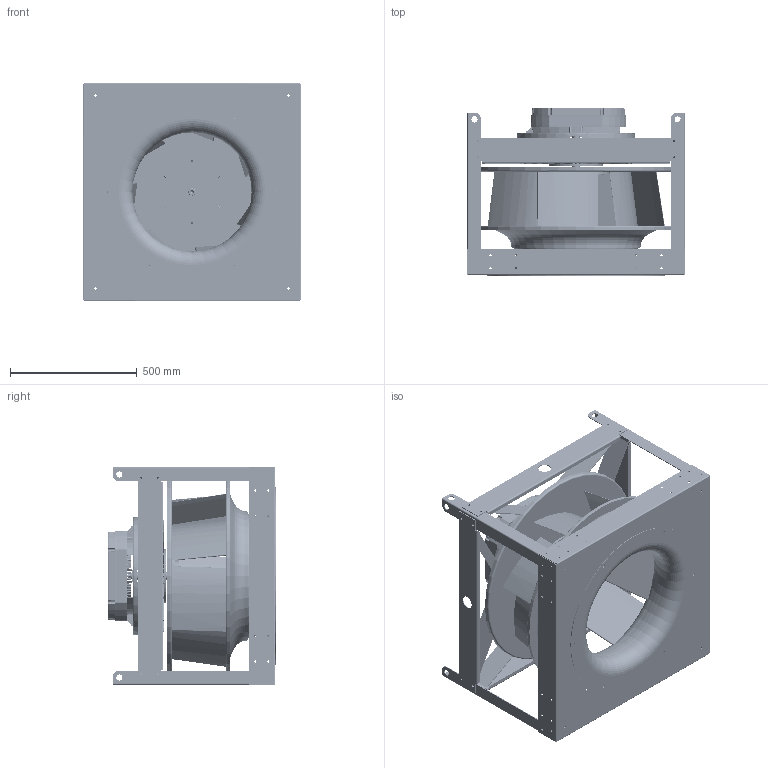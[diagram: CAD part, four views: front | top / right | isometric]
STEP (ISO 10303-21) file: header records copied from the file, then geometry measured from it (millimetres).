
FILE_DESCRIPTION (( 'STEP AP214' ), '1' );
FILE_NAME ('655790.STEP', '2026-06-10T20:30:36', ( '' ), ( '' ), 'SwSTEP 2.0', 'SolidWorks 2023', '' );
FILE_SCHEMA (( 'AUTOMOTIVE_DESIGN' ));
Length unit declared in the file: inch
Products named in the file (8): 651551_651551; 651571_651571; 768040CS_768040CS; 651572_651572; 925770CS_925770CS; 655790; 768052CS_768052CS; SXPI STRAP_651554
Assembly tree (16 placements, depth 2):
  655790
    651551_651551
    651571_651571  x4
    651572_651572  x4
    SXPI STRAP_651554  x4
    925770CS_925770CS
    768040CS_768040CS
    768052CS_768052CS
Bounding box: 864.96 x 661.4 x 864.96 mm (x, y, z)
Volume: 20061434.5 mm3; surface area: 10073637.8 mm2
Topology: 45 solids, 45 shells, 11309 faces, 27320 edges, 15782 vertices
Faces by surface type: bspline 3374, cylinder 2977, plane 1997, torus 1445, cone 1132, sphere 384
Full cylindrical faces by diameter (mm): 5.156 x6, 7.137 x48, 7.544 x1, 8.738 x84, 25.4 x8, 50.8 x4, 623.316 x1
Entity records: 440924 total; most frequent: CARTESIAN_POINT 209987, ORIENTED_EDGE 51856, DIRECTION 43768, EDGE_CURVE 25928, AXIS2_PLACEMENT_3D 18208, VERTEX_POINT 15320, EDGE_LOOP 11876, FACE_OUTER_BOUND 11101
